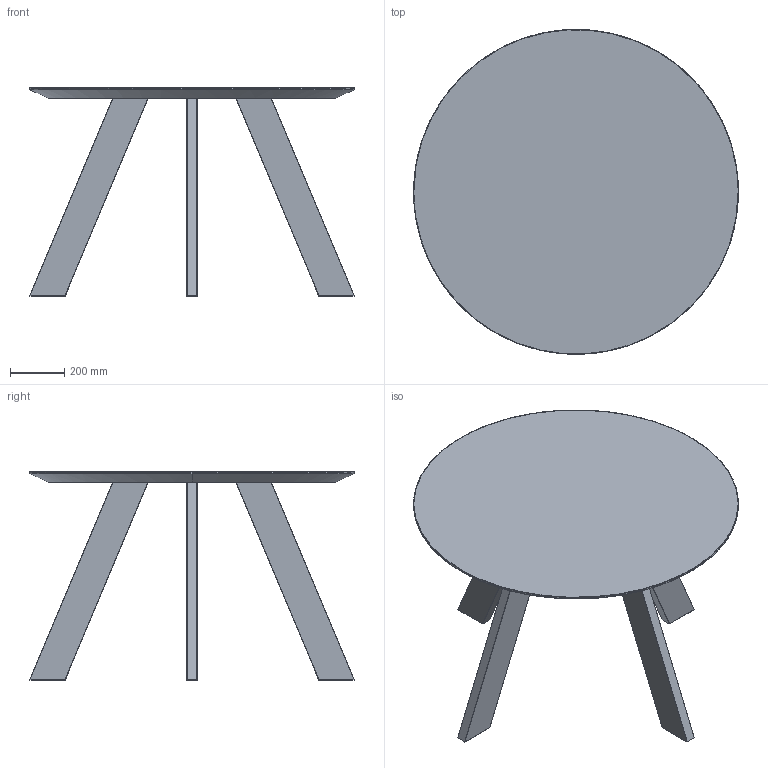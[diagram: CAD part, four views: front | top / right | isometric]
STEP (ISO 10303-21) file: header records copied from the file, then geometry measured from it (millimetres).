
FILE_DESCRIPTION(/* description */ (''),/* implementation_level */ '2;1');
FILE_NAME(/* name */ 'P-100',/* time_stamp */ '2021-10-18T22:03:04+02:00',/* author */ (''),/* organization */ (''),/* preprocessor_version */ 'ST-DEVELOPER v16.5',/* originating_system */ '',/* authorisation */ '');
FILE_SCHEMA (('AUTOMOTIVE_DESIGN'));
Length unit declared in the file: centimetre
Products named in the file (1): Document
Bounding box: 1200 x 1199.68 x 770 mm (x, y, z)
Volume: 53666155.8 mm3; surface area: 3352936.1 mm2
Topology: 5 solids, 5 shells, 84 faces, 166 edges, 92 vertices
Faces by surface type: cylinder 34, plane 26, bspline 24
Entity records: 2395 total; most frequent: CARTESIAN_POINT 1252, ORIENTED_EDGE 332, EDGE_CURVE 166, VERTEX_POINT 92, ADVANCED_FACE 84, FACE_OUTER_BOUND 84, EDGE_LOOP 84, B_SPLINE_CURVE_WITH_KNOTS 84
